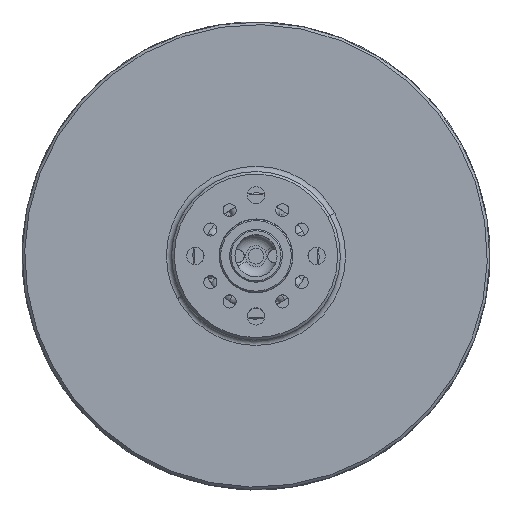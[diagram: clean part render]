
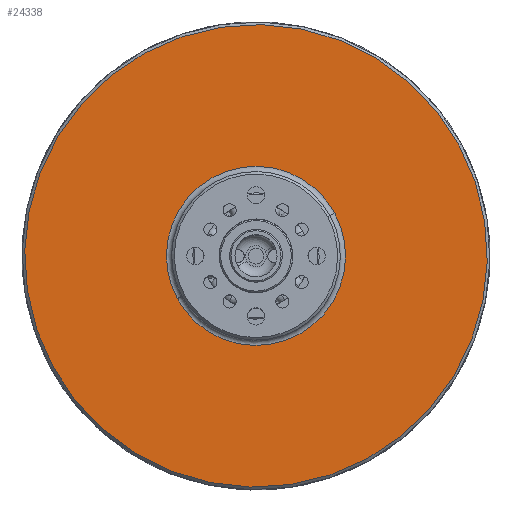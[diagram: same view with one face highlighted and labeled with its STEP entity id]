
A CAD part, top view. The second image highlights one B-rep face of the part: STEP entity #24338.
In plain terms, the highlighted planar face has unit normal (0, 0, 1).
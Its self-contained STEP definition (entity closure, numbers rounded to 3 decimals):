
#1215 = CARTESIAN_POINT ( 'NONE',  ( 0., 0., 8.25 ) ) ;
#3223 = DIRECTION ( 'NONE',  ( 0., 0., 1. ) ) ;
#4402 = VERTEX_POINT ( 'NONE', #42470 ) ;
#5469 = DIRECTION ( 'NONE',  ( 0., 0., 1. ) ) ;
#5725 = CARTESIAN_POINT ( 'NONE',  ( -17., 0., 8.25 ) ) ;
#5832 = AXIS2_PLACEMENT_3D ( 'NONE', #1215, #3223, #32024 ) ;
#9504 = CARTESIAN_POINT ( 'NONE',  ( 14.919, 8.15, 8.25 ) ) ;
#22315 = VERTEX_POINT ( 'NONE', #9504 ) ;
#23908 = EDGE_CURVE ( 'NONE', #124969, #22315, #29386, .T. ) ;
#24338 = ADVANCED_FACE ( 'NONE', ( #88566, #98618 ), #37800, .T. ) ;
#29386 = CIRCLE ( 'NONE', #33701, 17. ) ;
#29775 = DIRECTION ( 'NONE',  ( 1., 0., 0. ) ) ;
#30458 = CARTESIAN_POINT ( 'NONE',  ( -14.919, -8.15, 8.25 ) ) ;
#31424 = CIRCLE ( 'NONE', #5832, 43.9 ) ;
#32024 = DIRECTION ( 'NONE',  ( 1., 0., 0. ) ) ;
#33701 = AXIS2_PLACEMENT_3D ( 'NONE', #80581, #121333, #29775 ) ;
#37800 = PLANE ( 'NONE',  #61590 ) ;
#42470 = CARTESIAN_POINT ( 'NONE',  ( -38.526, -21.047, 8.25 ) ) ;
#43431 = CIRCLE ( 'NONE', #109652, 43.9 ) ;
#46909 = CARTESIAN_POINT ( 'NONE',  ( 0., 0., 8.25 ) ) ;
#46961 = CIRCLE ( 'NONE', #68298, 17. ) ;
#49170 = DIRECTION ( 'NONE',  ( 1., 0., 0. ) ) ;
#50950 = EDGE_CURVE ( 'NONE', #53391, #4402, #31424, .T. ) ;
#53391 = VERTEX_POINT ( 'NONE', #113558 ) ;
#61590 = AXIS2_PLACEMENT_3D ( 'NONE', #5725, #117375, #49170 ) ;
#63342 = ORIENTED_EDGE ( 'NONE', *, *, #23908, .F. ) ;
#68298 = AXIS2_PLACEMENT_3D ( 'NONE', #75983, #116751, #106731 ) ;
#75983 = CARTESIAN_POINT ( 'NONE',  ( 0., 0., 8.25 ) ) ;
#76376 = ORIENTED_EDGE ( 'NONE', *, *, #99606, .F. ) ;
#80581 = CARTESIAN_POINT ( 'NONE',  ( 0., 0., 8.25 ) ) ;
#88566 = FACE_BOUND ( 'NONE', #128437, .T. ) ;
#93981 = ORIENTED_EDGE ( 'NONE', *, *, #50950, .T. ) ;
#97035 = DIRECTION ( 'NONE',  ( 1., 0., 0. ) ) ;
#98618 = FACE_OUTER_BOUND ( 'NONE', #111074, .T. ) ;
#99606 = EDGE_CURVE ( 'NONE', #22315, #124969, #46961, .T. ) ;
#105439 = EDGE_CURVE ( 'NONE', #4402, #53391, #43431, .T. ) ;
#106731 = DIRECTION ( 'NONE',  ( 1., 0., 0. ) ) ;
#109652 = AXIS2_PLACEMENT_3D ( 'NONE', #46909, #5469, #97035 ) ;
#111074 = EDGE_LOOP ( 'NONE', ( #93981, #122670 ) ) ;
#113558 = CARTESIAN_POINT ( 'NONE',  ( 38.526, 21.047, 8.25 ) ) ;
#116751 = DIRECTION ( 'NONE',  ( 0., 0., 1. ) ) ;
#117375 = DIRECTION ( 'NONE',  ( 0., 0., 1. ) ) ;
#121333 = DIRECTION ( 'NONE',  ( 0., 0., 1. ) ) ;
#122670 = ORIENTED_EDGE ( 'NONE', *, *, #105439, .T. ) ;
#124969 = VERTEX_POINT ( 'NONE', #30458 ) ;
#128437 = EDGE_LOOP ( 'NONE', ( #63342, #76376 ) ) ;
